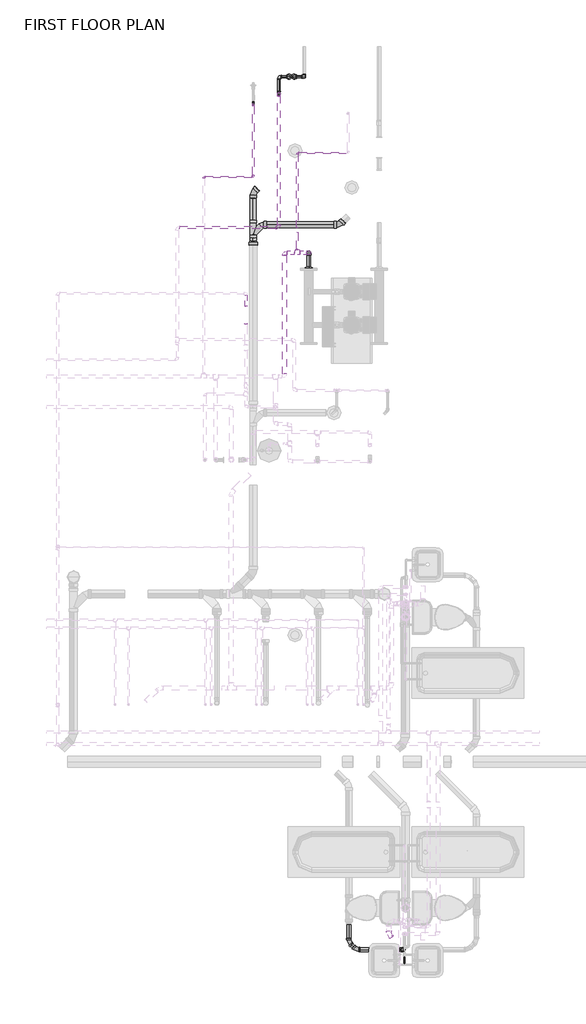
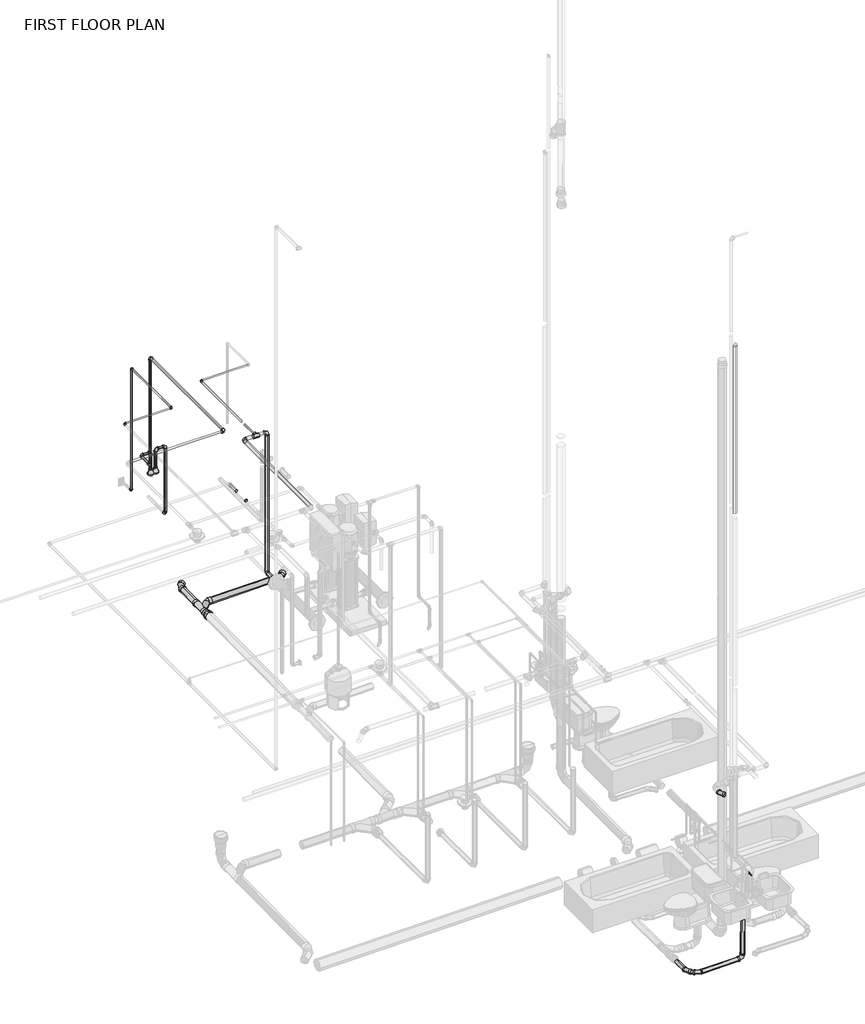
# One storey, part 20 of 29: 31 pipe fittings, 30 pipe segments.
"""IFC4 building model written with IfcOpenShell, lengths in millimetres."""

from ifc_helpers import new_model, si_unit, point, frame, frame_2d, origin, place, context, project, spatial, circle_curve, trimmed, segment, composite_curve, outline, extrude, transform, mapped, element, save
from components import bend_pvc_sch_40_dwv_standard_a5f90810, bend_pvc_sch_40_dwv_standard_c4dda021, bend_pvc_sch_40_dwv_standard_1671ccc9, bend_pvc_sch_40_dwv_standard_02f1eb69, bend_pvc_sch_40_dwv_standard_fb3cdf23, bend_pvc_sch_40_dwv_standard_d7a8bfe4, coupling_concentric_reducing_threaded_mi_class_150_standard_c36a9f6e, elbow_threaded_mi_class_150_standard_9e2fd9b8, pipe_elbow_copper_k_764eecca, pipe_elbow_copper_k_feaaf02c, pipe_tee_copper_k_36278b8a, pipe_transition_copper_k_2f557555, pipe_transition_copper_k_98bd30c5, pipe_transition_copper_k_534477dd, reducer_pvc_sch_40_dwv_standard_bc2808fd, wye_combination_with_8th_bend_pvc_sch_40_dwv_standard_8cbd1322

model = new_model("IFC4")

# Units and contexts
model_context = context("Model", 3, world=origin())
ifc_project = project(units=[si_unit("LENGTHUNIT", "METRE", prefix="MILLI")], contexts=[model_context])

# Site, building, storey
site = spatial("IfcSite", under=ifc_project)
building = spatial("IfcBuilding", under=site)
storey = spatial("IfcBuildingStorey", under=building, Name="FIRST FLOOR PLAN", Elevation=0.0)

# Pipe fittings
placement = place(None, origin())
bend_pvc_sch_40_dwv_standard_shape = bend_pvc_sch_40_dwv_standard_a5f90810(model_context)
element("IfcPipeFitting", 1, ObjectType="Bend - PVC - Sch 40 - DWV : Standard", at=placement, inside=storey, context=model_context, shape_type="MappedRepresentation", body=[
    mapped(bend_pvc_sch_40_dwv_standard_shape, transform((16898.2376313, 2694.4900503, -356.9062112), x_axis=(-0.007495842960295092, -0.004298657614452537, -0.9999626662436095), y_axis=(-0.9999719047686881, 7.70746407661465e-05, 0.007495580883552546), z_axis=(4.485082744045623e-05, 0.9999907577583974, -0.0042991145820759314))),
])
bend_pvc_sch_40_dwv_standard_2_shape = bend_pvc_sch_40_dwv_standard_c4dda021(model_context)
element("IfcPipeFitting", 2, ObjectType="Bend - PVC - Sch 40 - DWV : Standard", at=placement, inside=storey, context=model_context, shape_type="MappedRepresentation", body=[
    mapped(bend_pvc_sch_40_dwv_standard_2_shape, transform((14651.0738434, 14047.5330864, -322.668998), x_axis=(-0.7071010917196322, -0.7070741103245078, -0.007365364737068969), y_axis=(0.7071124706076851, -0.7070627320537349, -0.007365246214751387), z_axis=(1.0520611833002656e-12, -0.010416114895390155, 0.9999457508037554))),
])
bend_pvc_sch_40_dwv_standard_3_shape = bend_pvc_sch_40_dwv_standard_1671ccc9(model_context)
element("IfcPipeFitting", 3, ObjectType="Bend - PVC - Sch 40 - DWV : Standard", at=placement, inside=storey, context=model_context, shape_type="MappedRepresentation", body=[
    mapped(bend_pvc_sch_40_dwv_standard_3_shape, transform((15945.9168908, 13562.797472, -314.2629111), x_axis=(0.9999460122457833, 0.0, 0.01039098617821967), y_axis=(-0.00012706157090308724, 0.9999252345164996, 0.012227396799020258), z_axis=(-0.010390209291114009, -0.012228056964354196, 0.9998712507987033))),
])
bend_pvc_sch_40_dwv_standard_4_shape = bend_pvc_sch_40_dwv_standard_02f1eb69(model_context)
element("IfcPipeFitting", 4, ObjectType="Bend - PVC - Sch 40 - DWV : Standard", at=placement, inside=storey, context=model_context, shape_type="MappedRepresentation", body=[
    mapped(bend_pvc_sch_40_dwv_standard_4_shape, transform((16087.4645224, 2805.7901228, -365.3629536), x_axis=(0.0, -0.9999457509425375, 0.010416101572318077), y_axis=(1.0, 0.0, -5.353913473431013e-12), z_axis=(5.354203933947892e-12, 0.010416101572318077, 0.9999457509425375))),
])
bend_pvc_sch_40_dwv_standard_5_shape = bend_pvc_sch_40_dwv_standard_fb3cdf23(model_context)
element("IfcPipeFitting", 5, ObjectType="Bend - PVC - Sch 40 - DWV : Standard", at=placement, inside=storey, context=model_context, shape_type="MappedRepresentation", body=[
    mapped(bend_pvc_sch_40_dwv_standard_5_shape, transform((16198.7585577, 2694.4900503, -364.2035778), x_axis=(0.7070684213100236, -0.7071067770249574, 0.0073656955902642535), y_axis=(0.7070681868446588, 0.7071067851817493, 0.007387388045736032), z_axis=(-0.010432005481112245, -1.5339777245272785e-05, 0.9999455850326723))),
])
bend_pvc_sch_40_dwv_standard_6_shape = bend_pvc_sch_40_dwv_standard_d7a8bfe4(model_context)
element("IfcPipeFitting", 6, ObjectType="Bend - PVC - Sch 40 - DWV : Standard", at=placement, inside=storey, context=model_context, shape_type="MappedRepresentation", body=[
    mapped(bend_pvc_sch_40_dwv_standard_6_shape, transform((16687.9084874, 2920.2916431, 2285.9950222), x_axis=(0.0, -0.999999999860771, 1.6687061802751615e-05), y_axis=(0.9999999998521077, -2.869907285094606e-10, -1.7198397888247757e-05), z_axis=(1.7198397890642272e-05, 1.6687061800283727e-05, 0.9999999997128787))),
])
coupling_concentric_reducing_threaded_mi_class_150_standard_shape = coupling_concentric_reducing_threaded_mi_class_150_standard_c36a9f6e(model_context)
element("IfcPipeFitting", 7, ObjectType="Coupling Concentric Reducing - Threaded - MI - Class 150 : Standard", at=placement, inside=storey, context=model_context, shape_type="MappedRepresentation", body=[
    mapped(coupling_concentric_reducing_threaded_mi_class_150_standard_shape, transform((15266.6809135, 15782.7677357, 304.8), x_axis=(0.0, 0.0, 1.0), y_axis=(-0.9999996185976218, -0.0008733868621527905, 0.0), z_axis=(0.0008733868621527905, -0.9999996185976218, 0.0))),
])
element("IfcPipeFitting", 8, ObjectType="Coupling Concentric Reducing - Threaded - MI - Class 150 : Standard", at=placement, inside=storey, context=model_context, shape_type="MappedRepresentation", body=[
    mapped(coupling_concentric_reducing_threaded_mi_class_150_standard_shape, transform((15188.2066918, 15782.7677357, 304.8), x_axis=(0.0, 0.0, 1.0), y_axis=(-1.0, 0.0, 0.0), z_axis=(0.0, -1.0, 0.0))),
])
elbow_threaded_mi_class_150_standard_shape = elbow_threaded_mi_class_150_standard_9e2fd9b8(model_context)
element("IfcPipeFitting", 9, ObjectType="Elbow - Threaded - MI - Class 150 : Standard", at=placement, inside=storey, context=model_context, shape_type="MappedRepresentation", body=[
    mapped(elbow_threaded_mi_class_150_standard_shape, transform((15266.6809135, 15782.7677357, 685.8), x_axis=(0.0, 0.0, 1.0), y_axis=(1.0, 0.0, 0.0), z_axis=(0.0, 1.0, 0.0))),
])
element("IfcPipeFitting", 10, ObjectType="Elbow - Threaded - MI - Class 150 : Standard", at=placement, inside=storey, context=model_context, shape_type="MappedRepresentation", body=[
    mapped(elbow_threaded_mi_class_150_standard_shape, transform((15417.5192636, 15782.7677357, 685.8), x_axis=(1.0, 0.0, 0.0), y_axis=(0.0, 0.0, -1.0), z_axis=(0.0, 1.0, 0.0))),
])
element("IfcPipeFitting", 11, ObjectType="Elbow - Threaded - MI - Class 150 : Standard", at=placement, inside=storey, context=model_context, shape_type="MappedRepresentation", body=[
    mapped(elbow_threaded_mi_class_150_standard_shape, transform((15417.5192636, 15782.7677357, -431.8), x_axis=(0.0, 0.0, -1.0), y_axis=(0.0, 1.0, 0.0), z_axis=(1.0, 0.0, 0.0))),
])
element("IfcPipeFitting", 12, ObjectType="Elbow - Threaded - MI - Class 150 : Standard", at=placement, inside=storey, context=model_context, shape_type="MappedRepresentation", body=[
    mapped(elbow_threaded_mi_class_150_standard_shape, transform((15188.2066918, 15782.7677357, 660.4), x_axis=(0.0, 0.0, 1.0), y_axis=(-1.0, 0.0, 0.0), z_axis=(0.0, -1.0, 0.0))),
])
element("IfcPipeFitting", 13, ObjectType="Elbow - Threaded - MI - Class 150 : Standard", at=placement, inside=storey, context=model_context, shape_type="MappedRepresentation", body=[
    mapped(elbow_threaded_mi_class_150_standard_shape, transform((15035.8066918, 15782.7677357, 660.4), x_axis=(-1.0, 0.0, 0.0), y_axis=(0.0, -1.0, 0.0), z_axis=(0.0, 0.0, 1.0))),
])
element("IfcPipeFitting", 14, ObjectType="Elbow - Threaded - MI - Class 150 : Standard", at=placement, inside=storey, context=model_context, shape_type="MappedRepresentation", body=[
    mapped(elbow_threaded_mi_class_150_standard_shape, transform((15035.8066918, 15528.7677357, 660.4), x_axis=(0.0, -1.0, 0.0), y_axis=(0.0, 0.0, 1.0), z_axis=(-1.0, 0.0, 0.0))),
])
element("IfcPipeFitting", 15, ObjectType="Elbow - Threaded - MI - Class 150 : Standard", at=placement, inside=storey, context=model_context, shape_type="MappedRepresentation", body=[
    mapped(elbow_threaded_mi_class_150_standard_shape, transform((15035.8066918, 15528.7677357, 2438.4), x_axis=(0.0, 0.0, 1.0), y_axis=(0.0, -1.0, 0.0), z_axis=(1.0, 0.0, 0.0))),
])
element("IfcPipeFitting", 16, ObjectType="Elbow - Threaded - MI - Class 150 : Standard", at=placement, inside=storey, context=model_context, shape_type="MappedRepresentation", body=[
    mapped(elbow_threaded_mi_class_150_standard_shape, transform((15035.8066918, 13522.1677357, 2438.4), x_axis=(1.0, 0.0, 0.0), y_axis=(0.0, 1.0, 0.0), z_axis=(0.0, 0.0, 1.0))),
])
pipe_elbow_copper_k_shape = pipe_elbow_copper_k_764eecca(model_context)
element("IfcPipeFitting", 17, ObjectType="Pipe Elbow : Copper- K", at=placement, inside=storey, context=model_context, shape_type="MappedRepresentation", body=[
    mapped(pipe_elbow_copper_k_shape, transform((15485.4724875, 13142.9455629, 170.65625), x_axis=(0.0, 1.0, 0.0), y_axis=(0.0, 0.0, 1.0), z_axis=(1.0, 0.0, 0.0))),
])
element("IfcPipeFitting", 18, ObjectType="Pipe Elbow : Copper- K", at=placement, inside=storey, context=model_context, shape_type="MappedRepresentation", body=[
    mapped(pipe_elbow_copper_k_shape, transform((15485.4724875, 13142.9455629, 2490.6709446), x_axis=(0.0, 0.0, 1.0), y_axis=(-1.0, 0.0, 0.0), z_axis=(0.0, -1.0, 0.0))),
])
element("IfcPipeFitting", 19, ObjectType="Pipe Elbow : Copper- K", at=placement, inside=storey, context=model_context, shape_type="MappedRepresentation", body=[
    mapped(pipe_elbow_copper_k_shape, transform((15121.1356736, 13142.9455629, 2490.6709446), x_axis=(-1.0, 0.0, 0.0), y_axis=(0.0, -0.999999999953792, 9.613328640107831e-06), z_axis=(0.0, 9.613328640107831e-06, 0.999999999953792))),
])
pipe_elbow_copper_k_2_shape = pipe_elbow_copper_k_feaaf02c(model_context)
element("IfcPipeFitting", 20, ObjectType="Pipe Elbow : Copper- K", at=placement, inside=storey, context=model_context, shape_type="MappedRepresentation", body=[
    mapped(pipe_elbow_copper_k_2_shape, transform((13910.4423859, 14282.6137881, 2490.6637914), x_axis=(-0.9999999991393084, 0.0, -4.1489557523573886e-05), y_axis=(-3.8752823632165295e-10, -0.9999999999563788, 9.340380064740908e-06), z_axis=(-4.1489557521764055e-05, 9.340380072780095e-06, 0.999999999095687))),
])
element("IfcPipeFitting", 21, ObjectType="Pipe Elbow : Copper- K", at=placement, inside=storey, context=model_context, shape_type="MappedRepresentation", body=[
    mapped(pipe_elbow_copper_k_2_shape, transform((14653.1084875, 15370.0513998, 467.36875), x_axis=(0.0, -1.0, 0.0), y_axis=(0.0, 0.0, 1.0), z_axis=(-1.0, 0.0, 0.0))),
])
element("IfcPipeFitting", 22, ObjectType="Pipe Elbow : Copper- K", at=placement, inside=storey, context=model_context, shape_type="MappedRepresentation", body=[
    mapped(pipe_elbow_copper_k_2_shape, transform((14653.1084875, 14282.6137881, 2490.6882813), x_axis=(0.9999999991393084, 0.0, 4.148955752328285e-05), y_axis=(0.0, 1.0000000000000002, 0.0), z_axis=(-4.148955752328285e-05, 0.0, 0.9999999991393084))),
])
element("IfcPipeFitting", 23, ObjectType="Pipe Elbow : Copper- K", at=placement, inside=storey, context=model_context, shape_type="MappedRepresentation", body=[
    mapped(pipe_elbow_copper_k_2_shape, transform((14653.1084875, 15370.0513998, 2490.6882812), x_axis=(0.0, 0.0, 1.0), y_axis=(0.0, -1.0, 0.0), z_axis=(1.0, 0.0, 0.0))),
])
element("IfcPipeFitting", 24, ObjectType="Pipe Elbow : Copper- K", at=placement, inside=storey, context=model_context, shape_type="MappedRepresentation", body=[
    mapped(pipe_elbow_copper_k_2_shape, transform((15314.5476405, 14641.5455631, 2490.6771404), x_axis=(-0.9999999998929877, 0.0, -1.4629580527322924e-05), y_axis=(-1.4876585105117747e-10, -0.9999999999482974, 1.0168839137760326e-05), z_axis=(-1.4629580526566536e-05, 1.0168839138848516e-05, 0.9999999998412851))),
])
pipe_tee_copper_k_shape = pipe_tee_copper_k_36278b8a(model_context)
element("IfcPipeFitting", 25, ObjectType="Pipe Tee : Copper- K", at=placement, inside=storey, context=model_context, shape_type="MappedRepresentation", body=[
    mapped(pipe_tee_copper_k_shape, transform((15314.5476405, 13142.9455629, 2490.6709446), x_axis=(1.0, 0.0, 0.0), y_axis=(0.0, -0.9999999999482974, 1.0168839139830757e-05), z_axis=(0.0, -1.0168839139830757e-05, -0.9999999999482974))),
])
pipe_transition_copper_k_shape = pipe_transition_copper_k_2f557555(model_context)
element("IfcPipeFitting", 26, ObjectType="Pipe Transition : Copper- K", at=placement, inside=storey, context=model_context, shape_type="MappedRepresentation", body=[
    mapped(pipe_transition_copper_k_shape, transform((15485.4724875, 12908.4737881, 170.65625), x_axis=(0.0, 1.0, 0.0), y_axis=(-1.0, 0.0, 0.0), z_axis=(0.0, 0.0, 1.0))),
])
pipe_transition_copper_k_2_shape = pipe_transition_copper_k_98bd30c5(model_context)
element("IfcPipeFitting", 27, ObjectType="Pipe Transition : Copper- K", at=placement, inside=storey, context=model_context, shape_type="MappedRepresentation", body=[
    mapped(pipe_transition_copper_k_2_shape, transform((14543.6141549, 12343.7906435, 2336.8), x_axis=(0.0, -1.0, 0.0), y_axis=(1.0, 0.0, 0.0), z_axis=(0.0, 0.0, 1.0))),
])
element("IfcPipeFitting", 28, ObjectType="Pipe Transition : Copper- K", at=placement, inside=storey, context=model_context, shape_type="MappedRepresentation", body=[
    mapped(pipe_transition_copper_k_2_shape, transform((14543.6141549, 12073.1218935, 2336.8), x_axis=(0.0, 1.0, 0.0), y_axis=(-1.0, 0.0, 0.0), z_axis=(0.0, 0.0, 1.0))),
])
pipe_transition_copper_k_3_shape = pipe_transition_copper_k_534477dd(model_context)
element("IfcPipeFitting", 29, ObjectType="Pipe Transition : Copper- K", at=placement, inside=storey, context=model_context, shape_type="MappedRepresentation", body=[
    mapped(pipe_transition_copper_k_3_shape, transform((15314.5476405, 13185.8080629, 2490.6705087), x_axis=(0.0, 0.9999999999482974, -1.0168839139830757e-05), y_axis=(-1.0, 0.0, 0.0), z_axis=(0.0, 1.0168839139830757e-05, 0.9999999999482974))),
])
reducer_pvc_sch_40_dwv_standard_shape = reducer_pvc_sch_40_dwv_standard_bc2808fd(model_context)
element("IfcPipeFitting", 30, ObjectType="Reducer - PVC - Sch 40 - DWV : Standard", at=placement, inside=storey, context=model_context, shape_type="MappedRepresentation", body=[
    mapped(reducer_pvc_sch_40_dwv_standard_shape, transform((14651.0738434, 13365.9754173, -329.7685661), x_axis=(0.0, -0.9999457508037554, -0.010416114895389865), y_axis=(-0.010390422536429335, -0.010415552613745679, 0.9998917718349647), z_axis=(-0.9999460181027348, 0.00010822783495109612, -0.01038985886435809))),
])
wye_combination_with_8th_bend_pvc_sch_40_dwv_standard_shape = wye_combination_with_8th_bend_pvc_sch_40_dwv_standard_8cbd1322(model_context)
element("IfcPipeFitting", 31, ObjectType="Wye Combination with 8th Bend - PVC - Sch 40 - DWV : Standard", at=placement, inside=storey, context=model_context, shape_type="MappedRepresentation", body=[
    mapped(wye_combination_with_8th_bend_pvc_sch_40_dwv_standard_shape, transform((14651.0738434, 13562.797472, -327.7183338), x_axis=(0.0, 0.9999457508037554, 0.010416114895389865), y_axis=(-0.9999460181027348, 0.00010822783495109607, -0.010389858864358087), z_axis=(-0.01039042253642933, -0.010415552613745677, 0.9998917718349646))),
])

# Pipe segments
element("IfcPipeSegment", 32, ObjectType="Black Iron - GAS", at=placement, inside=storey, context=model_context, shape_type="SweptSolid", body=[
    extrude(outline(composite_curve([segment(trimmed(circle_curve(frame_2d((15266.6809135, 15782.7677357)), 16.7005), [point((15249.9804135, 15782.7677357))], [point((15266.6809135, 15799.4682357))], False, "CARTESIAN"), True, "CONTINUOUS"), segment(trimmed(circle_curve(frame_2d((15266.6809135, 15782.7677357)), 16.7005), [point((15266.6809135, 15799.4682357))], [point((15283.3814135, 15782.7677357))], False, "CARTESIAN"), True, "CONTINUOUS"), segment(trimmed(circle_curve(frame_2d((15266.6809135, 15782.7677357)), 16.7005), [point((15283.3814135, 15782.7677357))], [point((15266.6809135, 15766.0672357))], False, "CARTESIAN"), True, "CONTINUOUS"), segment(trimmed(circle_curve(frame_2d((15266.6809135, 15782.7677357)), 16.7005), [point((15266.6809135, 15766.0672357))], [point((15249.9804135, 15782.7677357))], False, "CARTESIAN"), True, "CONTINUOUS")], self_intersect=False)), frame((0.0, 0.0, 387.4), z_axis=(0.0, 0.0, 1.0), x_axis=(1.0, 0.0, 0.0)), (0.0, 0.0, 1.0), 260.3),
])
element("IfcPipeSegment", 33, ObjectType="Black Iron - GAS", at=placement, inside=storey, context=model_context, shape_type="SweptSolid", body=[
    extrude(outline(composite_curve([segment(trimmed(circle_curve(frame_2d((15782.7677357, 685.8)), 16.7005), [point((15766.0672357, 685.8))], [point((15782.7677357, 702.5005))], False, "CARTESIAN"), True, "CONTINUOUS"), segment(trimmed(circle_curve(frame_2d((15782.7677357, 685.8)), 16.7005), [point((15782.7677357, 702.5005))], [point((15799.4682357, 685.8))], False, "CARTESIAN"), True, "CONTINUOUS"), segment(trimmed(circle_curve(frame_2d((15782.7677357, 685.8)), 16.7005), [point((15799.4682357, 685.8))], [point((15782.7677357, 669.0995))], False, "CARTESIAN"), True, "CONTINUOUS"), segment(trimmed(circle_curve(frame_2d((15782.7677357, 685.8)), 16.7005), [point((15782.7677357, 669.0995))], [point((15766.0672357, 685.8))], False, "CARTESIAN"), True, "CONTINUOUS")], self_intersect=False)), frame((15304.7809135, 0.0, 0.0), z_axis=(1.0, 0.0, 0.0), x_axis=(0.0, 1.0, 0.0)), (0.0, 0.0, 1.0), 74.6383501),
])
element("IfcPipeSegment", 34, ObjectType="Black Iron - GAS", at=placement, inside=storey, context=model_context, shape_type="SweptSolid", body=[
    extrude(outline(composite_curve([segment(trimmed(circle_curve(frame_2d((15417.5192636, 15782.7677357)), 16.7005), [point((15434.2197636, 15782.7677357))], [point((15417.5192636, 15766.0672357))], False, "CARTESIAN"), True, "CONTINUOUS"), segment(trimmed(circle_curve(frame_2d((15417.5192636, 15782.7677357)), 16.7005), [point((15417.5192636, 15766.0672357))], [point((15400.8187636, 15782.7677357))], False, "CARTESIAN"), True, "CONTINUOUS"), segment(trimmed(circle_curve(frame_2d((15417.5192636, 15782.7677357)), 16.7005), [point((15400.8187636, 15782.7677357))], [point((15417.5192636, 15799.4682357))], False, "CARTESIAN"), True, "CONTINUOUS"), segment(trimmed(circle_curve(frame_2d((15417.5192636, 15782.7677357)), 16.7005), [point((15417.5192636, 15799.4682357))], [point((15434.2197636, 15782.7677357))], False, "CARTESIAN"), True, "CONTINUOUS")], self_intersect=False)), frame((0.0, 0.0, -393.7), z_axis=(0.0, 0.0, 1.0), x_axis=(1.0, 0.0, 0.0)), (0.0, 0.0, 1.0), 1041.4),
])
element("IfcPipeSegment", 35, ObjectType="Black Iron - GAS", at=placement, inside=storey, context=model_context, shape_type="SweptSolid", body=[
    extrude(outline(composite_curve([segment(trimmed(circle_curve(frame_2d((15188.2066918, 15782.7677357)), 16.7005), [point((15171.5061918, 15782.7677357))], [point((15188.2066918, 15799.4682357))], False, "CARTESIAN"), True, "CONTINUOUS"), segment(trimmed(circle_curve(frame_2d((15188.2066918, 15782.7677357)), 16.7005), [point((15188.2066918, 15799.4682357))], [point((15204.9071918, 15782.7677357))], False, "CARTESIAN"), True, "CONTINUOUS"), segment(trimmed(circle_curve(frame_2d((15188.2066918, 15782.7677357)), 16.7005), [point((15204.9071918, 15782.7677357))], [point((15188.2066918, 15766.0672357))], False, "CARTESIAN"), True, "CONTINUOUS"), segment(trimmed(circle_curve(frame_2d((15188.2066918, 15782.7677357)), 16.7005), [point((15188.2066918, 15766.0672357))], [point((15171.5061918, 15782.7677357))], False, "CARTESIAN"), True, "CONTINUOUS")], self_intersect=False)), frame((0.0, 0.0, 387.4), z_axis=(0.0, 0.0, 1.0), x_axis=(1.0, 0.0, 0.0)), (0.0, 0.0, 1.0), 234.9),
])
element("IfcPipeSegment", 36, ObjectType="Black Iron - GAS", at=placement, inside=storey, context=model_context, shape_type="SweptSolid", body=[
    extrude(outline(composite_curve([segment(trimmed(circle_curve(frame_2d((15782.7677357, 660.4)), 16.7005), [point((15799.4682357, 660.4))], [point((15782.7677357, 643.6995))], False, "CARTESIAN"), True, "CONTINUOUS"), segment(trimmed(circle_curve(frame_2d((15782.7677357, 660.4)), 16.7005), [point((15782.7677357, 643.6995))], [point((15766.0672357, 660.4))], False, "CARTESIAN"), True, "CONTINUOUS"), segment(trimmed(circle_curve(frame_2d((15782.7677357, 660.4)), 16.7005), [point((15766.0672357, 660.4))], [point((15782.7677357, 677.1005))], False, "CARTESIAN"), True, "CONTINUOUS"), segment(trimmed(circle_curve(frame_2d((15782.7677357, 660.4)), 16.7005), [point((15782.7677357, 677.1005))], [point((15799.4682357, 660.4))], False, "CARTESIAN"), True, "CONTINUOUS")], self_intersect=False)), frame((15073.9066918, 0.0, 0.0), z_axis=(1.0, 0.0, 0.0), x_axis=(0.0, 1.0, 0.0)), (0.0, 0.0, 1.0), 76.2),
])
element("IfcPipeSegment", 37, ObjectType="Black Iron - GAS", at=placement, inside=storey, context=model_context, shape_type="SweptSolid", body=[
    extrude(outline(composite_curve([segment(trimmed(circle_curve(frame_2d((660.4, 15035.8066918)), 16.7005), [point((660.4, 15019.1061918))], [point((643.6995, 15035.8066918))], False, "CARTESIAN"), True, "CONTINUOUS"), segment(trimmed(circle_curve(frame_2d((660.4, 15035.8066918)), 16.7005), [point((643.6995, 15035.8066918))], [point((660.4, 15052.5071918))], False, "CARTESIAN"), True, "CONTINUOUS"), segment(trimmed(circle_curve(frame_2d((660.4, 15035.8066918)), 16.7005), [point((660.4, 15052.5071918))], [point((677.1005, 15035.8066918))], False, "CARTESIAN"), True, "CONTINUOUS"), segment(trimmed(circle_curve(frame_2d((660.4, 15035.8066918)), 16.7005), [point((677.1005, 15035.8066918))], [point((660.4, 15019.1061918))], False, "CARTESIAN"), True, "CONTINUOUS")], self_intersect=False)), frame((0.0, 15566.8677357, 0.0), z_axis=(0.0, 1.0, 0.0), x_axis=(0.0, 0.0, 1.0)), (0.0, 0.0, 1.0), 177.8),
])
element("IfcPipeSegment", 38, ObjectType="Black Iron - GAS", at=placement, inside=storey, context=model_context, shape_type="SweptSolid", body=[
    extrude(outline(composite_curve([segment(trimmed(circle_curve(frame_2d((15035.8066918, 15528.7677357)), 16.7005), [point((15019.1061918, 15528.7677357))], [point((15035.8066918, 15545.4682357))], False, "CARTESIAN"), True, "CONTINUOUS"), segment(trimmed(circle_curve(frame_2d((15035.8066918, 15528.7677357)), 16.7005), [point((15035.8066918, 15545.4682357))], [point((15052.5071918, 15528.7677357))], False, "CARTESIAN"), True, "CONTINUOUS"), segment(trimmed(circle_curve(frame_2d((15035.8066918, 15528.7677357)), 16.7005), [point((15052.5071918, 15528.7677357))], [point((15035.8066918, 15512.0672357))], False, "CARTESIAN"), True, "CONTINUOUS"), segment(trimmed(circle_curve(frame_2d((15035.8066918, 15528.7677357)), 16.7005), [point((15035.8066918, 15512.0672357))], [point((15019.1061918, 15528.7677357))], False, "CARTESIAN"), True, "CONTINUOUS")], self_intersect=False)), frame((0.0, 0.0, 698.5), z_axis=(0.0, 0.0, 1.0), x_axis=(1.0, 0.0, 0.0)), (0.0, 0.0, 1.0), 1701.8),
])
element("IfcPipeSegment", 39, ObjectType="Black Iron - GAS", at=placement, inside=storey, context=model_context, shape_type="SweptSolid", body=[
    extrude(outline(composite_curve([segment(trimmed(circle_curve(frame_2d((2438.4, 15035.8066918)), 16.7005), [point((2438.4, 15019.1061918))], [point((2421.6995, 15035.8066918))], False, "CARTESIAN"), True, "CONTINUOUS"), segment(trimmed(circle_curve(frame_2d((2438.4, 15035.8066918)), 16.7005), [point((2421.6995, 15035.8066918))], [point((2438.4, 15052.5071918))], False, "CARTESIAN"), True, "CONTINUOUS"), segment(trimmed(circle_curve(frame_2d((2438.4, 15035.8066918)), 16.7005), [point((2438.4, 15052.5071918))], [point((2455.1005, 15035.8066918))], False, "CARTESIAN"), True, "CONTINUOUS"), segment(trimmed(circle_curve(frame_2d((2438.4, 15035.8066918)), 16.7005), [point((2455.1005, 15035.8066918))], [point((2438.4, 15019.1061918))], False, "CARTESIAN"), True, "CONTINUOUS")], self_intersect=False)), frame((0.0, 13560.2677357, 0.0), z_axis=(0.0, 1.0, 0.0), x_axis=(0.0, 0.0, 1.0)), (0.0, 0.0, 1.0), 1930.4),
])
element("IfcPipeSegment", 40, ObjectType="Black Iron - GAS", at=placement, inside=storey, context=model_context, shape_type="SweptSolid", body=[
    extrude(outline(composite_curve([segment(trimmed(circle_curve(frame_2d((13522.1677357, 2438.4)), 16.7005), [point((13538.8682357, 2438.4))], [point((13522.1677357, 2421.6995))], False, "CARTESIAN"), True, "CONTINUOUS"), segment(trimmed(circle_curve(frame_2d((13522.1677357, 2438.4)), 16.7005), [point((13522.1677357, 2421.6995))], [point((13505.4672357, 2438.4))], False, "CARTESIAN"), True, "CONTINUOUS"), segment(trimmed(circle_curve(frame_2d((13522.1677357, 2438.4)), 16.7005), [point((13505.4672357, 2438.4))], [point((13522.1677357, 2455.1005))], False, "CARTESIAN"), True, "CONTINUOUS"), segment(trimmed(circle_curve(frame_2d((13522.1677357, 2438.4)), 16.7005), [point((13522.1677357, 2455.1005))], [point((13538.8682357, 2438.4))], False, "CARTESIAN"), True, "CONTINUOUS")], self_intersect=False)), frame((13549.9066918, 0.0, 0.0), z_axis=(1.0, 0.0, 0.0), x_axis=(0.0, 1.0, 0.0)), (0.0, 0.0, 1.0), 1447.8),
])
element("IfcPipeSegment", 41, ObjectType="Copper", at=placement, inside=storey, context=model_context, shape_type="SweptSolid", body=[
    extrude(outline(composite_curve([segment(trimmed(circle_curve(frame_2d((170.65625, 15485.4724875)), 26.9875), [point((170.65625, 15512.4599875))], [point((197.64375, 15485.4724875))], False, "CARTESIAN"), True, "CONTINUOUS"), segment(trimmed(circle_curve(frame_2d((170.65625, 15485.4724875)), 26.9875), [point((197.64375, 15485.4724875))], [point((170.65625, 15458.4849875))], False, "CARTESIAN"), True, "CONTINUOUS"), segment(trimmed(circle_curve(frame_2d((170.65625, 15485.4724875)), 26.9875), [point((170.65625, 15458.4849875))], [point((143.66875, 15485.4724875))], False, "CARTESIAN"), True, "CONTINUOUS"), segment(trimmed(circle_curve(frame_2d((170.65625, 15485.4724875)), 26.9875), [point((143.66875, 15485.4724875))], [point((170.65625, 15512.4599875))], False, "CARTESIAN"), True, "CONTINUOUS")], self_intersect=False)), frame((0.0, 12941.0175381, 0.0), z_axis=(0.0, 1.0, 0.0), x_axis=(0.0, 0.0, 1.0)), (0.0, 0.0, 1.0), 165.4155249),
])
element("IfcPipeSegment", 42, ObjectType="Copper", at=placement, inside=storey, context=model_context, shape_type="SweptSolid", body=[
    extrude(outline(composite_curve([segment(trimmed(circle_curve(frame_2d((15485.4724875, 13142.9455629)), 26.9875), [point((15458.4849875, 13142.9455629))], [point((15485.4724875, 13169.9330629))], False, "CARTESIAN"), True, "CONTINUOUS"), segment(trimmed(circle_curve(frame_2d((15485.4724875, 13142.9455629)), 26.9875), [point((15485.4724875, 13169.9330629))], [point((15512.4599875, 13142.9455629))], False, "CARTESIAN"), True, "CONTINUOUS"), segment(trimmed(circle_curve(frame_2d((15485.4724875, 13142.9455629)), 26.9875), [point((15512.4599875, 13142.9455629))], [point((15485.4724875, 13115.9580629))], False, "CARTESIAN"), True, "CONTINUOUS"), segment(trimmed(circle_curve(frame_2d((15485.4724875, 13142.9455629)), 26.9875), [point((15485.4724875, 13115.9580629))], [point((15458.4849875, 13142.9455629))], False, "CARTESIAN"), True, "CONTINUOUS")], self_intersect=False)), frame((0.0, 0.0, 207.16875), z_axis=(0.0, 0.0, 1.0), x_axis=(1.0, 0.0, 0.0)), (0.0, 0.0, 1.0), 2246.9896946),
])
element("IfcPipeSegment", 43, ObjectType="Copper", at=placement, inside=storey, context=model_context, shape_type="SweptSolid", body=[
    extrude(outline(composite_curve([segment(trimmed(circle_curve(frame_2d((0.0, 26.9875)), 26.9875), [point((0.0, 0.0))], [point((-26.9875, 26.9875))], False, "CARTESIAN"), True, "CONTINUOUS"), segment(trimmed(circle_curve(frame_2d((0.0, 26.9875)), 26.9875), [point((-26.9875, 26.9875))], [point((0.0, 53.975))], False, "CARTESIAN"), True, "CONTINUOUS"), segment(trimmed(circle_curve(frame_2d((0.0, 26.9875)), 26.9875), [point((0.0, 53.975))], [point((26.9875, 26.9875))], False, "CARTESIAN"), True, "CONTINUOUS"), segment(trimmed(circle_curve(frame_2d((0.0, 26.9875)), 26.9875), [point((26.9875, 26.9875))], [point((0.0, 0.0))], False, "CARTESIAN"), True, "CONTINUOUS")], self_intersect=False)), frame((15094.1481736, 13106.4330629, 2490.6712956), z_axis=(0.0, -0.9999999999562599, 9.353101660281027e-06), x_axis=(0.0, -9.353101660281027e-06, -0.9999999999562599)), (0.0, 0.0, 1.0), 1779.903025),
])
element("IfcPipeSegment", 44, ObjectType="Copper", at=placement, inside=storey, context=model_context, shape_type="SweptSolid", body=[
    extrude(outline(composite_curve([segment(trimmed(circle_curve(frame_2d((0.0, 11.1125)), 11.1125), [point((-11.1125, 11.1125))], [point((0.0, 22.225))], False, "CARTESIAN"), True, "CONTINUOUS"), segment(trimmed(circle_curve(frame_2d((0.0, 11.1125)), 11.1125), [point((0.0, 22.225))], [point((11.1125, 11.1125))], False, "CARTESIAN"), True, "CONTINUOUS"), segment(trimmed(circle_curve(frame_2d((0.0, 11.1125)), 11.1125), [point((11.1125, 11.1125))], [point((0.0, 0.0))], False, "CARTESIAN"), True, "CONTINUOUS"), segment(trimmed(circle_curve(frame_2d((0.0, 11.1125)), 11.1125), [point((0.0, 0.0))], [point((-11.1125, 11.1125))], False, "CARTESIAN"), True, "CONTINUOUS")], self_intersect=False)), frame((13931.0802468, 14282.6137881, 2479.5521476), z_axis=(0.9999999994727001, 0.0, 3.247460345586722e-05), x_axis=(0.0, 1.0, 0.0)), (0.0, 0.0, 1.0), 701.3911019),
])
element("IfcPipeSegment", 45, ObjectType="Copper", at=placement, inside=storey, context=model_context, shape_type="SweptSolid", body=[
    extrude(outline(composite_curve([segment(trimmed(circle_curve(frame_2d((2490.6882813, 14653.1084875)), 11.1125), [point((2490.6882813, 14664.2209875))], [point((2501.8007813, 14653.1084875))], False, "CARTESIAN"), True, "CONTINUOUS"), segment(trimmed(circle_curve(frame_2d((2490.6882813, 14653.1084875)), 11.1125), [point((2501.8007813, 14653.1084875))], [point((2490.6882813, 14641.9959875))], False, "CARTESIAN"), True, "CONTINUOUS"), segment(trimmed(circle_curve(frame_2d((2490.6882813, 14653.1084875)), 11.1125), [point((2490.6882813, 14641.9959875))], [point((2479.5757813, 14653.1084875))], False, "CARTESIAN"), True, "CONTINUOUS"), segment(trimmed(circle_curve(frame_2d((2490.6882813, 14653.1084875)), 11.1125), [point((2479.5757813, 14653.1084875))], [point((2490.6882813, 14664.2209875))], False, "CARTESIAN"), True, "CONTINUOUS")], self_intersect=False)), frame((0.0, 14303.2512881, 0.0), z_axis=(0.0, 1.0, 0.0), x_axis=(0.0, 0.0, 1.0)), (0.0, 0.0, 1.0), 1046.1626118),
])
element("IfcPipeSegment", 46, ObjectType="Copper", at=placement, inside=storey, context=model_context, shape_type="SweptSolid", body=[
    extrude(outline(composite_curve([segment(trimmed(circle_curve(frame_2d((467.36875, 14653.1084875)), 11.1125), [point((467.36875, 14641.9959875))], [point((456.25625, 14653.1084875))], False, "CARTESIAN"), True, "CONTINUOUS"), segment(trimmed(circle_curve(frame_2d((467.36875, 14653.1084875)), 11.1125), [point((456.25625, 14653.1084875))], [point((467.36875, 14664.2209875))], False, "CARTESIAN"), True, "CONTINUOUS"), segment(trimmed(circle_curve(frame_2d((467.36875, 14653.1084875)), 11.1125), [point((467.36875, 14664.2209875))], [point((478.48125, 14653.1084875))], False, "CARTESIAN"), True, "CONTINUOUS"), segment(trimmed(circle_curve(frame_2d((467.36875, 14653.1084875)), 11.1125), [point((478.48125, 14653.1084875))], [point((467.36875, 14641.9959875))], False, "CARTESIAN"), True, "CONTINUOUS")], self_intersect=False)), frame((0.0, 15390.6888998, 0.0), z_axis=(0.0, 1.0, 0.0), x_axis=(0.0, 0.0, 1.0)), (0.0, 0.0, 1.0), 25.3998882),
])
element("IfcPipeSegment", 47, ObjectType="Copper", at=placement, inside=storey, context=model_context, shape_type="SweptSolid", body=[
    extrude(outline(composite_curve([segment(trimmed(circle_curve(frame_2d((14653.1084875, 15370.0513998)), 11.1125), [point((14641.9959875, 15370.0513998))], [point((14653.1084875, 15381.1638998))], False, "CARTESIAN"), True, "CONTINUOUS"), segment(trimmed(circle_curve(frame_2d((14653.1084875, 15370.0513998)), 11.1125), [point((14653.1084875, 15381.1638998))], [point((14664.2209875, 15370.0513998))], False, "CARTESIAN"), True, "CONTINUOUS"), segment(trimmed(circle_curve(frame_2d((14653.1084875, 15370.0513998)), 11.1125), [point((14664.2209875, 15370.0513998))], [point((14653.1084875, 15358.9388998))], False, "CARTESIAN"), True, "CONTINUOUS"), segment(trimmed(circle_curve(frame_2d((14653.1084875, 15370.0513998)), 11.1125), [point((14653.1084875, 15358.9388998))], [point((14641.9959875, 15370.0513998))], False, "CARTESIAN"), True, "CONTINUOUS")], self_intersect=False)), frame((0.0, 0.0, 488.00625), z_axis=(0.0, 0.0, 1.0), x_axis=(1.0, 0.0, 0.0)), (0.0, 0.0, 1.0), 1982.0445313),
])
element("IfcPipeSegment", 48, ObjectType="Copper", at=placement, inside=storey, context=model_context, shape_type="SweptSolid", body=[
    extrude(outline(composite_curve([segment(trimmed(circle_curve(frame_2d((2336.8, 14543.6141549)), 17.4625), [point((2336.8, 14526.1516549))], [point((2319.3375, 14543.6141549))], False, "CARTESIAN"), True, "CONTINUOUS"), segment(trimmed(circle_curve(frame_2d((2336.8, 14543.6141549)), 17.4625), [point((2319.3375, 14543.6141549))], [point((2336.8, 14561.0766549))], False, "CARTESIAN"), True, "CONTINUOUS"), segment(trimmed(circle_curve(frame_2d((2336.8, 14543.6141549)), 17.4625), [point((2336.8, 14561.0766549))], [point((2354.2625, 14543.6141549))], False, "CARTESIAN"), True, "CONTINUOUS"), segment(trimmed(circle_curve(frame_2d((2336.8, 14543.6141549)), 17.4625), [point((2354.2625, 14543.6141549))], [point((2336.8, 14526.1516549))], False, "CARTESIAN"), True, "CONTINUOUS")], self_intersect=False)), frame((0.0, 12343.7906435, 0.0), z_axis=(0.0, 1.0, 0.0), x_axis=(0.0, 0.0, 1.0)), (0.0, 0.0, 1.0), 164.8356445),
])
element("IfcPipeSegment", 49, ObjectType="Copper", at=placement, inside=storey, context=model_context, shape_type="SweptSolid", body=[
    extrude(outline(composite_curve([segment(trimmed(circle_curve(frame_2d((0.0, -11.1125)), 11.1125), [point((0.0, -22.225))], [point((-11.1125, -11.1125))], False, "CARTESIAN"), True, "CONTINUOUS"), segment(trimmed(circle_curve(frame_2d((0.0, -11.1125)), 11.1125), [point((-11.1125, -11.1125))], [point((0.0, 0.0))], False, "CARTESIAN"), True, "CONTINUOUS"), segment(trimmed(circle_curve(frame_2d((0.0, -11.1125)), 11.1125), [point((0.0, 0.0))], [point((11.1125, -11.1125))], False, "CARTESIAN"), True, "CONTINUOUS"), segment(trimmed(circle_curve(frame_2d((0.0, -11.1125)), 11.1125), [point((11.1125, -11.1125))], [point((0.0, -22.225))], False, "CARTESIAN"), True, "CONTINUOUS")], self_intersect=False)), frame((15303.4351405, 14620.9080631, 2490.6773502), z_axis=(0.0, -0.9999999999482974, 1.0168839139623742e-05), x_axis=(0.0, 1.0168839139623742e-05, 0.9999999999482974)), (0.0, 0.0, 1.0), 1100.4802275),
])
element("IfcPipeSegment", 50, ObjectType="Copper", at=placement, inside=storey, context=model_context, shape_type="SweptSolid", body=[
    extrude(outline(composite_curve([segment(trimmed(circle_curve(frame_2d((13142.9455629, 2490.6709446)), 26.9875), [point((13169.9330629, 2490.6709446))], [point((13142.9455629, 2463.6834446))], False, "CARTESIAN"), True, "CONTINUOUS"), segment(trimmed(circle_curve(frame_2d((13142.9455629, 2490.6709446)), 26.9875), [point((13142.9455629, 2463.6834446))], [point((13115.9580629, 2490.6709446))], False, "CARTESIAN"), True, "CONTINUOUS"), segment(trimmed(circle_curve(frame_2d((13142.9455629, 2490.6709446)), 26.9875), [point((13115.9580629, 2490.6709446))], [point((13142.9455629, 2517.6584446))], False, "CARTESIAN"), True, "CONTINUOUS"), segment(trimmed(circle_curve(frame_2d((13142.9455629, 2490.6709446)), 26.9875), [point((13142.9455629, 2517.6584446))], [point((13169.9330629, 2490.6709446))], False, "CARTESIAN"), True, "CONTINUOUS")], self_intersect=False)), frame((15157.6481736, 0.0, 0.0), z_axis=(1.0, 0.0, 0.0), x_axis=(0.0, 1.0, 0.0)), (0.0, 0.0, 1.0), 114.0369669),
])
element("IfcPipeSegment", 51, ObjectType="Copper", at=placement, inside=storey, context=model_context, shape_type="SweptSolid", body=[
    extrude(outline(composite_curve([segment(trimmed(circle_curve(frame_2d((13142.9455629, 2490.6709446)), 26.9875), [point((13169.9330629, 2490.6709446))], [point((13142.9455629, 2463.6834446))], False, "CARTESIAN"), True, "CONTINUOUS"), segment(trimmed(circle_curve(frame_2d((13142.9455629, 2490.6709446)), 26.9875), [point((13142.9455629, 2463.6834446))], [point((13115.9580629, 2490.6709446))], False, "CARTESIAN"), True, "CONTINUOUS"), segment(trimmed(circle_curve(frame_2d((13142.9455629, 2490.6709446)), 26.9875), [point((13115.9580629, 2490.6709446))], [point((13142.9455629, 2517.6584446))], False, "CARTESIAN"), True, "CONTINUOUS"), segment(trimmed(circle_curve(frame_2d((13142.9455629, 2490.6709446)), 26.9875), [point((13142.9455629, 2517.6584446))], [point((13169.9330629, 2490.6709446))], False, "CARTESIAN"), True, "CONTINUOUS")], self_intersect=False)), frame((15357.4101405, 0.0, 0.0), z_axis=(1.0, 0.0, 0.0), x_axis=(0.0, 1.0, 0.0)), (0.0, 0.0, 1.0), 91.5498469),
])
element("IfcPipeSegment", 52, ObjectType="Copper", at=placement, inside=storey, context=model_context, shape_type="SweptSolid", body=[
    extrude(outline(composite_curve([segment(trimmed(circle_curve(frame_2d((0.0, 11.1125)), 11.1125), [point((-11.1125, 11.1125))], [point((0.0, 22.225))], False, "CARTESIAN"), True, "CONTINUOUS"), segment(trimmed(circle_curve(frame_2d((0.0, 11.1125)), 11.1125), [point((0.0, 22.225))], [point((11.1125, 11.1125))], False, "CARTESIAN"), True, "CONTINUOUS"), segment(trimmed(circle_curve(frame_2d((0.0, 11.1125)), 11.1125), [point((11.1125, 11.1125))], [point((0.0, 0.0))], False, "CARTESIAN"), True, "CONTINUOUS"), segment(trimmed(circle_curve(frame_2d((0.0, 11.1125)), 11.1125), [point((0.0, 0.0))], [point((-11.1125, 11.1125))], False, "CARTESIAN"), True, "CONTINUOUS")], self_intersect=False)), frame((15335.1853031, 14641.5455631, 2479.5649423), z_axis=(0.9999999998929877, 0.0, 1.4629580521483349e-05), x_axis=(0.0, 1.0, 0.0)), (0.0, 0.0, 1.0), 720.2570765),
])
element("IfcPipeSegment", 53, ObjectType="Copper", at=placement, inside=storey, context=model_context, shape_type="SweptSolid", body=[
    extrude(outline(composite_curve([segment(trimmed(circle_curve(frame_2d((0.0, 11.1125)), 11.1125), [point((0.0, 22.225))], [point((11.1125, 11.1125))], False, "CARTESIAN"), True, "CONTINUOUS"), segment(trimmed(circle_curve(frame_2d((0.0, 11.1125)), 11.1125), [point((11.1125, 11.1125))], [point((0.0, 0.0))], False, "CARTESIAN"), True, "CONTINUOUS"), segment(trimmed(circle_curve(frame_2d((0.0, 11.1125)), 11.1125), [point((0.0, 0.0))], [point((-11.1125, 11.1125))], False, "CARTESIAN"), True, "CONTINUOUS"), segment(trimmed(circle_curve(frame_2d((0.0, 11.1125)), 11.1125), [point((-11.1125, 11.1125))], [point((0.0, 22.225))], False, "CARTESIAN"), True, "CONTINUOUS")], self_intersect=False)), frame((15303.4351405, 13199.3018131, 2490.6918063), z_axis=(-2.8259299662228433e-12, 1.0, 0.0), x_axis=(0.0, 0.0, 1.0)), (0.0, 0.0, 1.0), 248.4058225),
])
element("IfcPipeSegment", 54, ObjectType="Copper", at=placement, inside=storey, context=model_context, shape_type="SweptSolid", body=[
    extrude(outline(composite_curve([segment(trimmed(circle_curve(frame_2d((0.0, 26.9874999)), 26.9875), [point((-26.986768, 26.7887344))], [point((-0.1987656, 53.9742681))], False, "CARTESIAN"), True, "CONTINUOUS"), segment(trimmed(circle_curve(frame_2d((0.0, 26.9874999)), 26.9875), [point((-0.1987656, 53.9742681))], [point((26.986768, 27.1862655))], False, "CARTESIAN"), True, "CONTINUOUS"), segment(trimmed(circle_curve(frame_2d((0.0, 26.9874999)), 26.9875), [point((26.986768, 27.1862655))], [point((0.1987655, 0.0007319))], False, "CARTESIAN"), True, "CONTINUOUS"), segment(trimmed(circle_curve(frame_2d((0.0, 26.9874999)), 26.9875), [point((0.1987655, 0.0007319))], [point((-26.986768, 26.7887344))], False, "CARTESIAN"), True, "CONTINUOUS")], self_intersect=False)), frame((16127.8734827, 2765.097866, -391.92804), z_axis=(0.7070684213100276, -0.7071067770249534, 0.0073656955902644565), x_axis=(0.7071451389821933, 0.707030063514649, -0.0073648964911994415)), (0.0, 0.0, 1.0), 43.102073),
])
element("IfcPipeSegment", 55, ObjectType="Copper", at=placement, inside=storey, context=model_context, shape_type="SweptSolid", body=[
    extrude(outline(composite_curve([segment(trimmed(circle_curve(frame_2d((16920.4834875, 2929.398977)), 26.9875), [point((16893.4959875, 2929.398977))], [point((16920.4834875, 2956.386477))], False, "CARTESIAN"), True, "CONTINUOUS"), segment(trimmed(circle_curve(frame_2d((16920.4834875, 2929.398977)), 26.9875), [point((16920.4834875, 2956.386477))], [point((16947.4709875, 2929.398977))], False, "CARTESIAN"), True, "CONTINUOUS"), segment(trimmed(circle_curve(frame_2d((16920.4834875, 2929.398977)), 26.9875), [point((16947.4709875, 2929.398977))], [point((16920.4834875, 2902.411477))], False, "CARTESIAN"), True, "CONTINUOUS"), segment(trimmed(circle_curve(frame_2d((16920.4834875, 2929.398977)), 26.9875), [point((16920.4834875, 2902.411477))], [point((16893.4959875, 2929.398977))], False, "CARTESIAN"), True, "CONTINUOUS")], self_intersect=False)), frame((0.0, 0.0, 6850.0625), z_axis=(0.0, 0.0, 1.0), x_axis=(1.0, 0.0, 0.0)), (0.0, 0.0, 1.0), 2764.63125),
])
element("IfcPipeSegment", 56, ObjectType="Copper", at=placement, inside=storey, context=model_context, shape_type="SweptSolid", body=[
    extrude(outline(composite_curve([segment(trimmed(circle_curve(frame_2d((1117.6, 16920.4834875)), 7.9375), [point((1117.6, 16912.5459875))], [point((1109.6625, 16920.4834875))], False, "CARTESIAN"), True, "CONTINUOUS"), segment(trimmed(circle_curve(frame_2d((1117.6, 16920.4834875)), 7.9375), [point((1109.6625, 16920.4834875))], [point((1117.6, 16928.4209875))], False, "CARTESIAN"), True, "CONTINUOUS"), segment(trimmed(circle_curve(frame_2d((1117.6, 16920.4834875)), 7.9375), [point((1117.6, 16928.4209875))], [point((1125.5375, 16920.4834875))], False, "CARTESIAN"), True, "CONTINUOUS"), segment(trimmed(circle_curve(frame_2d((1117.6, 16920.4834875)), 7.9375), [point((1125.5375, 16920.4834875))], [point((1117.6, 16912.5459875))], False, "CARTESIAN"), True, "CONTINUOUS")], self_intersect=False)), frame((0.0, 2485.6574561, 0.0), z_axis=(0.0, 1.0, 0.0), x_axis=(0.0, 0.0, 1.0)), (0.0, 0.0, 1.0), 102.6523264),
])
element("IfcPipeSegment", 57, ObjectType="PVC - SAN/STORM", at=placement, inside=storey, context=model_context, shape_type="SweptSolid", body=[
    extrude(outline(composite_curve([segment(trimmed(circle_curve(frame_2d((0.0, -30.1625)), 30.1625), [point((-14.9880335, -3.9874115))], [point((26.1750885, -15.1744666))], False, "CARTESIAN"), True, "CONTINUOUS"), segment(trimmed(circle_curve(frame_2d((0.0, -30.1625)), 30.1625), [point((26.1750885, -15.1744666))], [point((14.9880334, -56.3375886))], False, "CARTESIAN"), True, "CONTINUOUS"), segment(trimmed(circle_curve(frame_2d((0.0, -30.1625)), 30.1625), [point((14.9880334, -56.3375886))], [point((-26.1750886, -45.1505334))], False, "CARTESIAN"), True, "CONTINUOUS"), segment(trimmed(circle_curve(frame_2d((0.0, -30.1625)), 30.1625), [point((-26.1750886, -45.1505334))], [point((-14.9880335, -3.9874115))], False, "CARTESIAN"), True, "CONTINUOUS")], self_intersect=False)), frame((16898.8208094, 2724.9867089, -279.2383772), z_axis=(0.007495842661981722, 0.00429201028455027, 0.9999626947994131), x_axis=(0.9999719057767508, -3.2173137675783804e-05, -0.007495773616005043)), (0.0, 0.0, 1.0), 720.4976116),
])
element("IfcPipeSegment", 58, ObjectType="PVC - SAN/STORM", at=placement, inside=storey, context=model_context, shape_type="SweptSolid", body=[
    extrude(outline(composite_curve([segment(trimmed(circle_curve(frame_2d((0.0, 44.4500001)), 44.45), [point((44.45, 44.4500001))], [point((0.0, 0.0))], False, "CARTESIAN"), True, "CONTINUOUS"), segment(trimmed(circle_curve(frame_2d((0.0, 44.4500001)), 44.45), [point((0.0, 0.0))], [point((-44.45, 44.4500001))], False, "CARTESIAN"), True, "CONTINUOUS"), segment(trimmed(circle_curve(frame_2d((0.0, 44.4500001)), 44.45), [point((-44.45, 44.4500001))], [point((0.0, 88.9000001))], False, "CARTESIAN"), True, "CONTINUOUS"), segment(trimmed(circle_curve(frame_2d((0.0, 44.4500001)), 44.45), [point((0.0, 88.9000001))], [point((44.45, 44.4500001))], False, "CARTESIAN"), True, "CONTINUOUS")], self_intersect=False)), frame((14651.0738434, 13629.4295029, -282.5718377), z_axis=(0.0, 0.999945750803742, 0.010416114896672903), x_axis=(1.0, 0.0, 0.0)), (0.0, 0.0, 1.0), 335.1132451),
])
element("IfcPipeSegment", 59, ObjectType="PVC - SAN/STORM", at=placement, inside=storey, context=model_context, shape_type="SweptSolid", body=[
    extrude(outline(composite_curve([segment(trimmed(circle_curve(frame_2d((0.0, 44.45)), 44.45), [point((0.0, 0.0))], [point((-44.4500001, 44.45))], False, "CARTESIAN"), True, "CONTINUOUS"), segment(trimmed(circle_curve(frame_2d((0.0, 44.45)), 44.45), [point((-44.4500001, 44.45))], [point((0.0, 88.9))], False, "CARTESIAN"), True, "CONTINUOUS"), segment(trimmed(circle_curve(frame_2d((0.0, 44.45)), 44.45), [point((0.0, 88.9))], [point((44.45, 44.45))], False, "CARTESIAN"), True, "CONTINUOUS"), segment(trimmed(circle_curve(frame_2d((0.0, 44.45)), 44.45), [point((44.45, 44.45))], [point((0.0, 0.0))], False, "CARTESIAN"), True, "CONTINUOUS")], self_intersect=False)), frame((14848.7005743, 13518.347472, -325.6646863), z_axis=(0.9999460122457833, 0.0, 0.01039098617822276), x_axis=(0.01039098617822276, 0.0, -0.9999460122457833)), (0.0, 0.0, 1.0), 1014.7255559),
])
element("IfcPipeSegment", 60, ObjectType="PVC - SAN/STORM", at=placement, inside=storey, context=model_context, shape_type="SweptSolid", body=[
    extrude(outline(composite_curve([segment(trimmed(circle_curve(frame_2d((0.0, 30.1625)), 30.1625), [point((-30.1625, 30.1625))], [point((0.0, 60.325))], False, "CARTESIAN"), True, "CONTINUOUS"), segment(trimmed(circle_curve(frame_2d((0.0, 30.1625)), 30.1625), [point((0.0, 60.325))], [point((30.1625, 30.1625))], False, "CARTESIAN"), True, "CONTINUOUS"), segment(trimmed(circle_curve(frame_2d((0.0, 30.1625)), 30.1625), [point((30.1625, 30.1625))], [point((0.0, 0.0))], False, "CARTESIAN"), True, "CONTINUOUS"), segment(trimmed(circle_curve(frame_2d((0.0, 30.1625)), 30.1625), [point((0.0, 0.0))], [point((-30.1625, 30.1625))], False, "CARTESIAN"), True, "CONTINUOUS")], self_intersect=False)), frame((16087.4645224, 3073.2940721, -398.3135894), z_axis=(0.0, -0.9999457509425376, 0.010416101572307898), x_axis=(1.0, 0.0, 0.0)), (0.0, 0.0, 1.0), 210.6826546),
])
element("IfcPipeSegment", 61, ObjectType="PVC - SAN/STORM", at=placement, inside=storey, context=model_context, shape_type="SweptSolid", body=[
    extrude(outline(composite_curve([segment(trimmed(circle_curve(frame_2d((0.0, -30.1625)), 30.1625), [point((0.0, 0.0))], [point((30.1625, -30.1625))], False, "CARTESIAN"), True, "CONTINUOUS"), segment(trimmed(circle_curve(frame_2d((0.0, -30.1625)), 30.1625), [point((30.1625, -30.1625))], [point((0.0, -60.325))], False, "CARTESIAN"), True, "CONTINUOUS"), segment(trimmed(circle_curve(frame_2d((0.0, -30.1625)), 30.1625), [point((0.0, -60.325))], [point((-30.1625, -30.1625))], False, "CARTESIAN"), True, "CONTINUOUS"), segment(trimmed(circle_curve(frame_2d((0.0, -30.1625)), 30.1625), [point((-30.1625, -30.1625))], [point((0.0, 0.0))], False, "CARTESIAN"), True, "CONTINUOUS")], self_intersect=False)), frame((16255.9054479, 2724.6525503, -363.6073887), z_axis=(0.9999455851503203, 0.0, 0.010432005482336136), x_axis=(0.010432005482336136, 0.0, -0.9999455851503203)), (0.0, 0.0, 1.0), 564.5669377),
])

save(model, "model.ifc")
